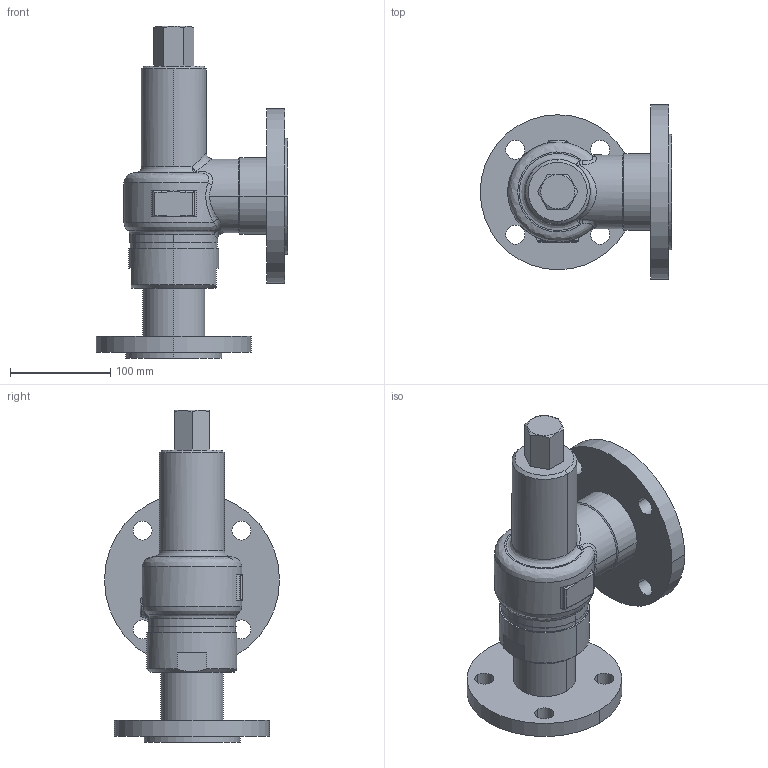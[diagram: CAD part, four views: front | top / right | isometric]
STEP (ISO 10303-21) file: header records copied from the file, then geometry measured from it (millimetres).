
FILE_DESCRIPTION( (''), '2;1');
FILE_NAME ('PC1027.9568.AL-32 50A_6103.stp','2025-07-28T13:29:49',(''),(''),'spGate 19.8.4 (****-****-****-****)','','');
FILE_SCHEMA (('AUTOMOTIVE_DESIGN'));
Length unit declared in the file: millimetre
Products named in the file (2): Assembly; AL-32 50A-3D
Assembly tree (1 placements, depth 2):
  Assembly
    AL-32 50A-3D
Bounding box: 191.5 x 175 x 332 mm (x, y, z)
Volume: 2056186.8 mm3; surface area: 209040.8 mm2
Topology: 1 solids, 1 shells, 128 faces, 315 edges, 194 vertices
Faces by surface type: cylinder 53, bspline 41, plane 32, sphere 2
Entity records: 8331 total; most frequent: CARTESIAN_POINT 3089, ORIENTED_EDGE 618, DIRECTION 518, COLOUR_RGB 438, PRESENTATION_STYLE_ASSIGNMENT 438, STYLED_ITEM 438, EDGE_CURVE 309, DRAUGHTING_PRE_DEFINED_CURVE_FONT 309
